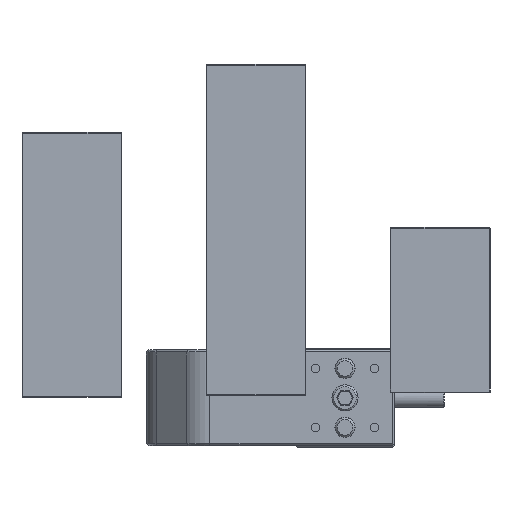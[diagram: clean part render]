
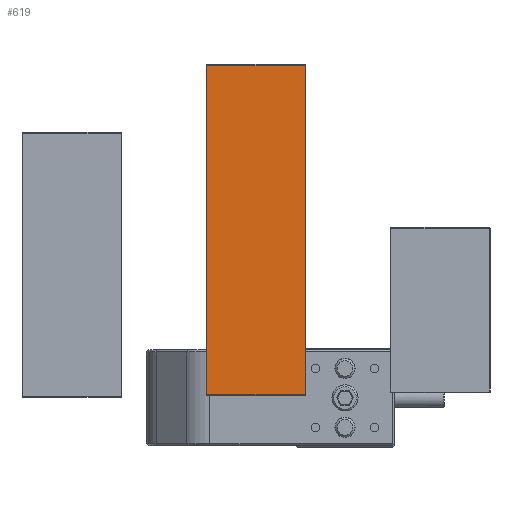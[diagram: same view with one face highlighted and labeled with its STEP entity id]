
A CAD part, left-side view. The second image highlights one B-rep face of the part: STEP entity #619.
In plain terms, the highlighted free-form (B-spline) face has degree [1, 1] with [2, 2] control points.
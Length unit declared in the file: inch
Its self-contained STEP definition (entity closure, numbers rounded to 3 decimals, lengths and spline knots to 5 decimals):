
#252=CARTESIAN_POINT('',(9.95113,56.6267,7.13871));
#253=VERTEX_POINT('',#252);
#260=CARTESIAN_POINT('',(9.95113,57.7947,7.13871));
#261=VERTEX_POINT('',#260);
#262=CARTESIAN_POINT('',(9.95113,56.6267,7.13871));
#263=DIRECTION('',(0.0,1.0,0.0));
#264=VECTOR('',#263,1.168);
#265=LINE('',#262,#264);
#266=EDGE_CURVE('',#253,#261,#265,.T.);
#357=CARTESIAN_POINT('',(9.95113,57.7947,11.05421));
#358=VERTEX_POINT('',#357);
#359=CARTESIAN_POINT('',(9.95113,57.7947,7.13871));
#360=DIRECTION('',(0.0,0.0,1.0));
#361=VECTOR('',#360,3.9155);
#362=LINE('',#359,#361);
#363=EDGE_CURVE('',#261,#358,#362,.T.);
#405=CARTESIAN_POINT('',(9.95113,56.6267,11.05421));
#406=VERTEX_POINT('',#405);
#413=CARTESIAN_POINT('',(9.95113,56.6267,11.05421));
#414=DIRECTION('',(0.0,0.0,-1.0));
#415=VECTOR('',#414,3.9155);
#416=LINE('',#413,#415);
#417=EDGE_CURVE('',#406,#253,#416,.T.);
#572=CARTESIAN_POINT('',(9.95113,57.7947,11.05421));
#573=DIRECTION('',(0.0,-1.0,0.0));
#574=VECTOR('',#573,1.168);
#575=LINE('',#572,#574);
#576=EDGE_CURVE('',#358,#406,#575,.T.);
#608=CARTESIAN_POINT('',(9.95113,56.6267,11.05421));
#609=CARTESIAN_POINT('',(9.95113,57.7947,11.05421));
#610=CARTESIAN_POINT('',(9.95113,56.6267,7.13871));
#611=CARTESIAN_POINT('',(9.95113,57.7947,7.13871));
#612=B_SPLINE_SURFACE_WITH_KNOTS('',1,1,((#608,#610),(#609,#611)),.UNSPECIFIED.,.F.,.F.,.U.,(2,2),(2,2),(0.0,1.168),(0.0,3.9155),.UNSPECIFIED.);
#613=ORIENTED_EDGE('',*,*,#266,.F.);
#614=ORIENTED_EDGE('',*,*,#417,.F.);
#615=ORIENTED_EDGE('',*,*,#576,.F.);
#616=ORIENTED_EDGE('',*,*,#363,.F.);
#617=EDGE_LOOP('',(#613,#614,#615,#616));
#618=FACE_OUTER_BOUND('',#617,.T.);
#619=ADVANCED_FACE('',(#618),#612,.T.);
